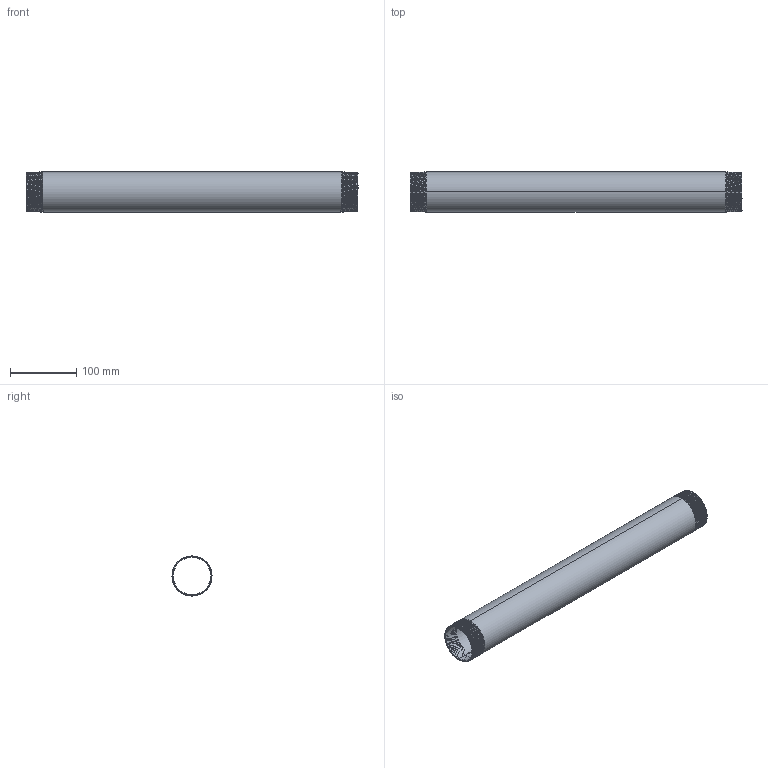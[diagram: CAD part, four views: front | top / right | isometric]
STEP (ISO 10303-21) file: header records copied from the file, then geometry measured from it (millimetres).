
FILE_DESCRIPTION (( 'STEP AP203' ), '1' );
FILE_NAME ('3D_R210_2x500_17191540.STEP', '2024-08-16T14:43:17', ( '' ), ( '' ), 'SwSTEP 2.0', 'SolidWorks 2024', '' );
FILE_SCHEMA (( 'CONFIG_CONTROL_DESIGN' ));
Length unit declared in the file: millimetre
Products named in the file (1): 3D_R210_2x500_17191540
Bounding box: 500 x 60.29 x 60.3 mm (x, y, z)
Volume: 177012.3 mm3; surface area: 188702.3 mm2
Topology: 1 solids, 1 shells, 68 faces, 192 edges, 126 vertices
Faces by surface type: cone 54, bspline 6, cylinder 4, plane 4
Entity records: 12689 total; most frequent: CARTESIAN_POINT 11103, ORIENTED_EDGE 384, DIRECTION 212, EDGE_CURVE 192, VERTEX_POINT 126, B_SPLINE_CURVE_WITH_KNOTS 110, AXIS2_PLACEMENT_3D 75, EDGE_LOOP 70
